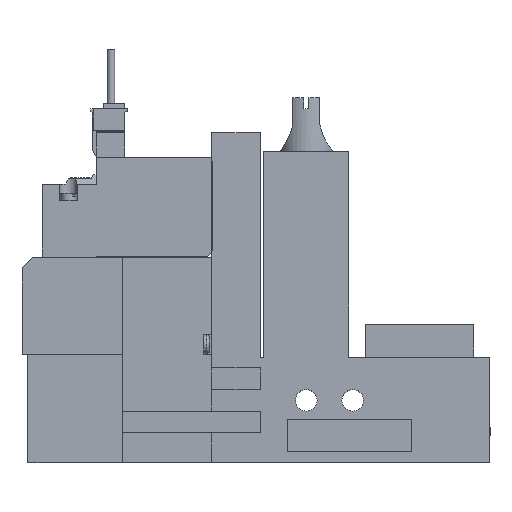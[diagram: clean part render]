
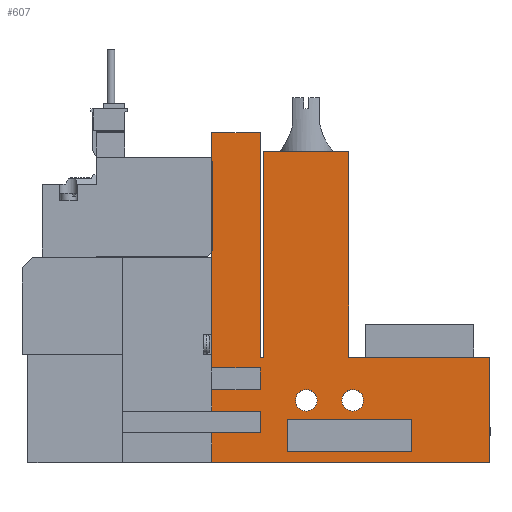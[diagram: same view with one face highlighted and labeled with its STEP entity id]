
A CAD part, top view. The second image highlights one B-rep face of the part: STEP entity #607.
In plain terms, the highlighted planar face has unit normal (0, 0, 1).
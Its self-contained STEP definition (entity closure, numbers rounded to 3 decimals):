
#607=ADVANCED_FACE('',(#1254,#1255,#1256,#1257),#1258,.T.);
#1254=FACE_OUTER_BOUND('',#1969,.T.);
#1255=FACE_BOUND('',#1970,.T.);
#1256=FACE_BOUND('',#1971,.T.);
#1257=FACE_BOUND('',#1972,.T.);
#1258=PLANE('',#1973);
#1969=EDGE_LOOP('',(#4395,#4396,#4397,#4398,#4399,#4400,#4401,#4402,#4403,#4404,#4405,#4406,#4407,#4408,#4409,#4410,#4411,#4412));
#1970=EDGE_LOOP('',(#4413,#4414,#4415,#4416));
#1971=EDGE_LOOP('',(#4417));
#1972=EDGE_LOOP('',(#4418));
#1973=AXIS2_PLACEMENT_3D('',#4419,#4420,#4421);
#4395=ORIENTED_EDGE('',*,*,#5566,.T.);
#4396=ORIENTED_EDGE('',*,*,#5493,.T.);
#4397=ORIENTED_EDGE('',*,*,#5565,.T.);
#4398=ORIENTED_EDGE('',*,*,#5553,.T.);
#4399=ORIENTED_EDGE('',*,*,#5406,.T.);
#4400=ORIENTED_EDGE('',*,*,#5525,.T.);
#4401=ORIENTED_EDGE('',*,*,#5567,.T.);
#4402=ORIENTED_EDGE('',*,*,#5518,.T.);
#4403=ORIENTED_EDGE('',*,*,#5522,.T.);
#4404=ORIENTED_EDGE('',*,*,#5533,.T.);
#4405=ORIENTED_EDGE('',*,*,#5568,.T.);
#4406=ORIENTED_EDGE('',*,*,#5411,.T.);
#4407=ORIENTED_EDGE('',*,*,#5415,.T.);
#4408=ORIENTED_EDGE('',*,*,#5418,.T.);
#4409=ORIENTED_EDGE('',*,*,#5422,.T.);
#4410=ORIENTED_EDGE('',*,*,#5569,.T.);
#4411=ORIENTED_EDGE('',*,*,#5433,.T.);
#4412=ORIENTED_EDGE('',*,*,#5570,.T.);
#4413=ORIENTED_EDGE('',*,*,#5571,.T.);
#4414=ORIENTED_EDGE('',*,*,#5462,.T.);
#4415=ORIENTED_EDGE('',*,*,#5505,.T.);
#4416=ORIENTED_EDGE('',*,*,#5426,.T.);
#4417=ORIENTED_EDGE('',*,*,#5554,.T.);
#4418=ORIENTED_EDGE('',*,*,#5506,.T.);
#4419=CARTESIAN_POINT('',(0.0,0.0,10.0));
#4420=DIRECTION('',(0.0,0.0,1.0));
#4421=DIRECTION('',(1.0,0.0,0.0));
#5406=EDGE_CURVE('',#6691,#6689,#6692,.T.);
#5411=EDGE_CURVE('',#6701,#6699,#6702,.T.);
#5415=EDGE_CURVE('',#6699,#6706,#6708,.T.);
#5418=EDGE_CURVE('',#6706,#6711,#6713,.T.);
#5422=EDGE_CURVE('',#6711,#6717,#6719,.T.);
#5426=EDGE_CURVE('',#6720,#6725,#6727,.T.);
#5433=EDGE_CURVE('',#6741,#6739,#6742,.T.);
#5462=EDGE_CURVE('',#6787,#6792,#6794,.T.);
#5493=EDGE_CURVE('',#6844,#6848,#6850,.T.);
#5505=EDGE_CURVE('',#6792,#6720,#6867,.T.);
#5506=EDGE_CURVE('',#6868,#6868,#6869,.T.);
#5518=EDGE_CURVE('',#6890,#6888,#6891,.T.);
#5522=EDGE_CURVE('',#6888,#6894,#6896,.T.);
#5525=EDGE_CURVE('',#6689,#6901,#6902,.T.);
#5533=EDGE_CURVE('',#6894,#6911,#6913,.T.);
#5553=EDGE_CURVE('',#6937,#6691,#6940,.T.);
#5554=EDGE_CURVE('',#6941,#6941,#6942,.T.);
#5565=EDGE_CURVE('',#6848,#6937,#6958,.T.);
#5566=EDGE_CURVE('',#6959,#6844,#6960,.T.);
#5567=EDGE_CURVE('',#6901,#6890,#6961,.T.);
#5568=EDGE_CURVE('',#6911,#6701,#6962,.T.);
#5569=EDGE_CURVE('',#6717,#6741,#6963,.T.);
#5570=EDGE_CURVE('',#6739,#6959,#6964,.T.);
#5571=EDGE_CURVE('',#6725,#6787,#6965,.T.);
#6689=VERTEX_POINT('',#8740);
#6691=VERTEX_POINT('',#8743);
#6692=LINE('',#8744,#8745);
#6699=VERTEX_POINT('',#8754);
#6701=VERTEX_POINT('',#8757);
#6702=LINE('',#8758,#8759);
#6706=VERTEX_POINT('',#8765);
#6708=LINE('',#8768,#8769);
#6711=VERTEX_POINT('',#8773);
#6713=LINE('',#8776,#8777);
#6717=VERTEX_POINT('',#8782);
#6719=LINE('',#8785,#8786);
#6720=VERTEX_POINT('',#8787);
#6725=VERTEX_POINT('',#8794);
#6727=LINE('',#8797,#8798);
#6739=VERTEX_POINT('',#8815);
#6741=VERTEX_POINT('',#8818);
#6742=LINE('',#8819,#8820);
#6787=VERTEX_POINT('',#8888);
#6792=VERTEX_POINT('',#8895);
#6794=LINE('',#8898,#8899);
#6844=VERTEX_POINT('',#8973);
#6848=VERTEX_POINT('',#8979);
#6850=LINE('',#8982,#8983);
#6867=LINE('',#9010,#9011);
#6868=VERTEX_POINT('',#9012);
#6869=CIRCLE('',#9013,2.0);
#6888=VERTEX_POINT('',#9041);
#6890=VERTEX_POINT('',#9044);
#6891=LINE('',#9045,#9046);
#6894=VERTEX_POINT('',#9051);
#6896=LINE('',#9054,#9055);
#6901=VERTEX_POINT('',#9060);
#6902=LINE('',#9061,#9062);
#6911=VERTEX_POINT('',#9077);
#6913=LINE('',#9080,#9081);
#6937=VERTEX_POINT('',#9140);
#6940=LINE('',#9145,#9146);
#6941=VERTEX_POINT('',#9147);
#6942=CIRCLE('',#9148,2.0);
#6958=LINE('',#9174,#9175);
#6959=VERTEX_POINT('',#9176);
#6960=LINE('',#9177,#9178);
#6961=LINE('',#9179,#9180);
#6962=LINE('',#9181,#9182);
#6963=LINE('',#9183,#9184);
#6964=LINE('',#9185,#9186);
#6965=LINE('',#9187,#9188);
#8740=CARTESIAN_POINT('',(35.1,9.5,10.0));
#8743=CARTESIAN_POINT('',(35.1,13.5,10.0));
#8744=CARTESIAN_POINT('',(35.1,0.0,10.0));
#8745=VECTOR('',#10082,1.0);
#8754=CARTESIAN_POINT('',(60.45,19.5,10.0));
#8757=CARTESIAN_POINT('',(86.6,19.5,10.0));
#8758=CARTESIAN_POINT('',(86.6,19.5,10.0));
#8759=VECTOR('',#10089,1.0);
#8765=CARTESIAN_POINT('',(60.45,57.5,10.0));
#8768=CARTESIAN_POINT('',(60.45,19.5,10.0));
#8769=VECTOR('',#10093,1.0);
#8773=CARTESIAN_POINT('',(44.75,57.5,10.0));
#8776=CARTESIAN_POINT('',(60.45,57.5,10.0));
#8777=VECTOR('',#10096,1.0);
#8782=CARTESIAN_POINT('',(44.75,19.5,10.0));
#8785=CARTESIAN_POINT('',(44.75,57.5,10.0));
#8786=VECTOR('',#10102,1.0);
#8787=CARTESIAN_POINT('',(72.1,2.0,10.0));
#8794=CARTESIAN_POINT('',(49.1,2.0,10.0));
#8797=CARTESIAN_POINT('',(0.0,2.0,10.0));
#8798=VECTOR('',#10106,1.0);
#8815=CARTESIAN_POINT('',(44.1,61.0,10.0));
#8818=CARTESIAN_POINT('',(44.1,19.5,10.0));
#8819=CARTESIAN_POINT('',(44.1,19.5,10.0));
#8820=VECTOR('',#10113,1.0);
#8888=CARTESIAN_POINT('',(49.1,8.0,10.0));
#8895=CARTESIAN_POINT('',(72.1,8.0,10.0));
#8898=CARTESIAN_POINT('',(0.0,8.0,10.0));
#8899=VECTOR('',#10146,1.0);
#8973=CARTESIAN_POINT('',(35.1,17.5,10.0));
#8979=CARTESIAN_POINT('',(44.1,17.5,10.0));
#8982=CARTESIAN_POINT('',(0.0,17.5,10.0));
#8983=VECTOR('',#10183,1.0);
#9010=CARTESIAN_POINT('',(72.1,0.0,10.0));
#9011=VECTOR('',#10197,1.0);
#9012=CARTESIAN_POINT('',(63.2,11.5,10.0));
#9013=AXIS2_PLACEMENT_3D('',#10198,#10199,#10200);
#9041=CARTESIAN_POINT('',(35.1,5.5,10.0));
#9044=CARTESIAN_POINT('',(44.1,5.5,10.0));
#9045=CARTESIAN_POINT('',(0.0,5.5,10.0));
#9046=VECTOR('',#10214,1.0);
#9051=CARTESIAN_POINT('',(35.1,0.0,10.0));
#9054=CARTESIAN_POINT('',(35.1,0.0,10.0));
#9055=VECTOR('',#10218,1.0);
#9060=CARTESIAN_POINT('',(44.1,9.5,10.0));
#9061=CARTESIAN_POINT('',(0.0,9.5,10.0));
#9062=VECTOR('',#10225,1.0);
#9077=CARTESIAN_POINT('',(86.6,0.0,10.0));
#9080=CARTESIAN_POINT('',(18.6,0.0,10.0));
#9081=VECTOR('',#10233,1.0);
#9140=CARTESIAN_POINT('',(44.1,13.5,10.0));
#9145=CARTESIAN_POINT('',(0.0,13.5,10.0));
#9146=VECTOR('',#10260,1.0);
#9147=CARTESIAN_POINT('',(54.6,11.5,10.0));
#9148=AXIS2_PLACEMENT_3D('',#10261,#10262,#10263);
#9174=CARTESIAN_POINT('',(44.1,0.0,10.0));
#9175=VECTOR('',#10274,1.0);
#9176=CARTESIAN_POINT('',(35.1,61.0,10.0));
#9177=CARTESIAN_POINT('',(35.1,61.0,10.0));
#9178=VECTOR('',#10275,1.0);
#9179=CARTESIAN_POINT('',(44.1,0.0,10.0));
#9180=VECTOR('',#10276,1.0);
#9181=CARTESIAN_POINT('',(86.6,0.0,10.0));
#9182=VECTOR('',#10277,1.0);
#9183=CARTESIAN_POINT('',(44.75,19.5,10.0));
#9184=VECTOR('',#10278,1.0);
#9185=CARTESIAN_POINT('',(44.1,61.0,10.0));
#9186=VECTOR('',#10279,1.0);
#9187=CARTESIAN_POINT('',(49.1,0.0,10.0));
#9188=VECTOR('',#10280,1.0);
#10082=DIRECTION('',(0.0,-1.0,0.0));
#10089=DIRECTION('',(-1.0,0.0,0.0));
#10093=DIRECTION('',(0.0,1.0,0.0));
#10096=DIRECTION('',(-1.0,0.0,0.0));
#10102=DIRECTION('',(0.0,-1.0,0.0));
#10106=DIRECTION('',(-1.0,0.0,0.0));
#10113=DIRECTION('',(0.0,1.0,0.0));
#10146=DIRECTION('',(1.0,0.0,0.0));
#10183=DIRECTION('',(1.0,0.0,0.0));
#10197=DIRECTION('',(0.0,-1.0,0.0));
#10198=CARTESIAN_POINT('',(61.2,11.5,10.0));
#10199=DIRECTION('',(0.0,0.0,-1.0));
#10200=DIRECTION('',(1.0,0.0,0.0));
#10214=DIRECTION('',(-1.0,0.0,0.0));
#10218=DIRECTION('',(0.0,-1.0,0.0));
#10225=DIRECTION('',(1.0,0.0,0.0));
#10233=DIRECTION('',(1.0,0.0,0.0));
#10260=DIRECTION('',(-1.0,0.0,0.0));
#10261=CARTESIAN_POINT('',(52.6,11.5,10.0));
#10262=DIRECTION('',(0.0,0.0,-1.0));
#10263=DIRECTION('',(1.0,0.0,0.0));
#10274=DIRECTION('',(0.0,-1.0,0.0));
#10275=DIRECTION('',(0.0,-1.0,0.0));
#10276=DIRECTION('',(0.0,-1.0,0.0));
#10277=DIRECTION('',(0.0,1.0,0.0));
#10278=DIRECTION('',(-1.0,0.0,0.0));
#10279=DIRECTION('',(-1.0,0.0,0.0));
#10280=DIRECTION('',(0.0,1.0,0.0));
